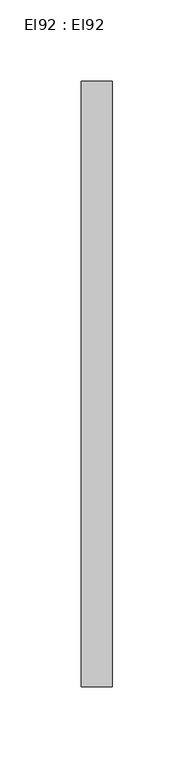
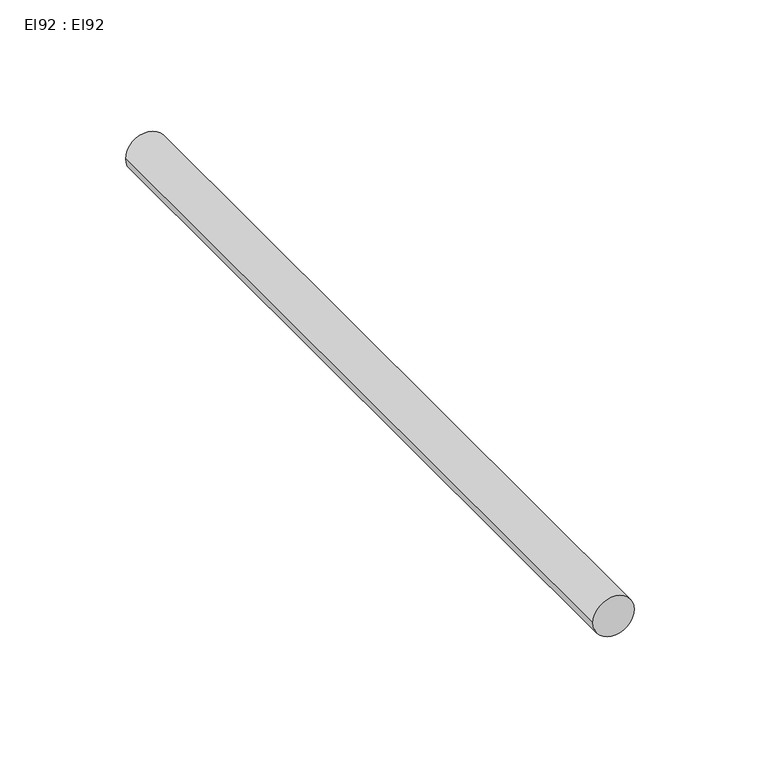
"""IFC4 building model written with IfcOpenShell, lengths in millimetres: cable carrier segment geometry, El92 : El92."""

from ifc_helpers import new_model, si_unit, point, frame, frame_2d, origin, place, context, project, spatial, circle_curve, trimmed, segment, composite_curve, outline, extrude, source, transform, mapped, element, save


def el92_el92_566eeafd(model_context):
    return source(origin(), model_context, "Body", "SweptSolid", [
        extrude(outline(composite_curve([segment(trimmed(circle_curve(frame_2d((300.0, 21030.0)), 9.5), [point((300.0, 21020.5))], [point((300.0, 21039.5))], False, "CARTESIAN"), True, "CONTINUOUS"), segment(trimmed(circle_curve(frame_2d((300.0, 21030.0)), 9.5), [point((300.0, 21039.5))], [point((300.0, 21020.5))], False, "CARTESIAN"), True, "CONTINUOUS")], self_intersect=False)), frame((0.0, 17451.724, 0.0), z_axis=(0.0, 1.0, 0.0), x_axis=(0.0, 0.0, 1.0)), (0.0, 0.0, 1.0), 371.952),
    ])


if __name__ == "__main__":
    model = new_model("IFC4")
    model_context = context("Model", 3, world=origin())
    ifc_project = project(units=[si_unit("LENGTHUNIT", "METRE", prefix="MILLI")], contexts=[model_context])
    site = spatial("IfcSite", under=ifc_project)
    building = spatial("IfcBuilding", under=site)
    placement = place(None, origin())
    el92_el92_shape = el92_el92_566eeafd(model_context)
    element("IfcCableCarrierSegment", 1, ObjectType="El92 : El92", at=placement, inside=building, context=model_context, shape_type="MappedRepresentation", body=[
        mapped(el92_el92_shape, transform((0.0, 0.0, 0.0), x_axis=(1.0, 0.0, 0.0), y_axis=(0.0, 1.0, 0.0), z_axis=(0.0, 0.0, 1.0))),
    ])
    save(model, "model.ifc")
